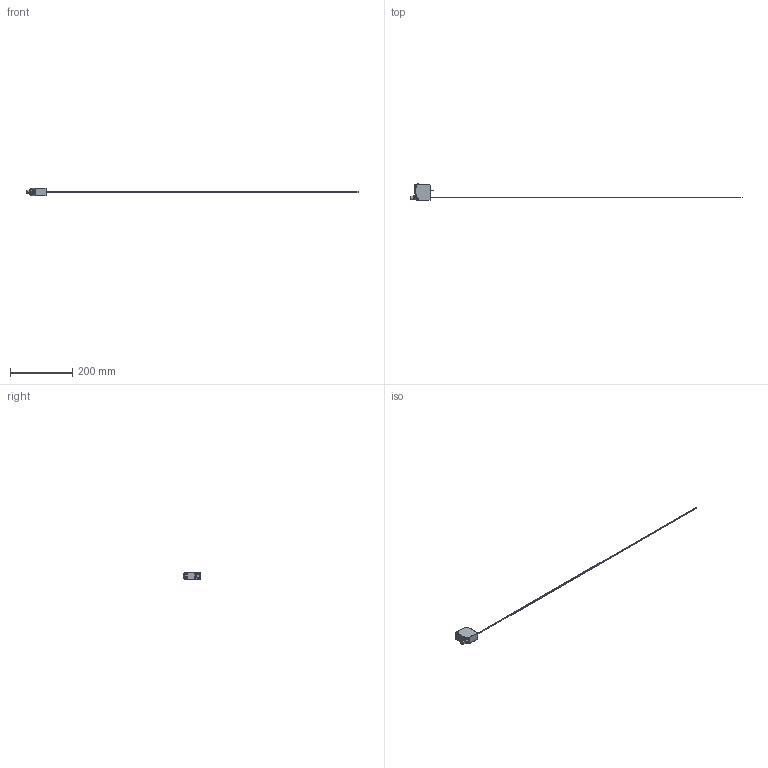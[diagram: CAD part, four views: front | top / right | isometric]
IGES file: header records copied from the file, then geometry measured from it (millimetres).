
Global section: file name: 624-41009_FT 55-RL2AM-800-PNSUIDL-L5M; native system: Autodesk Inventor 2023; preprocessor: unknown; author: Sandra.Stahl; date: 20231005.131508; units: millimetre
Bounding box: 1064.52 x 52.11 x 25 mm (x, y, z)
Volume: 65560.1 mm3; surface area: 21965 mm2
Topology: 4 solids, 4 shells, 252 faces, 632 edges, 403 vertices
Faces by surface type: bspline 252
